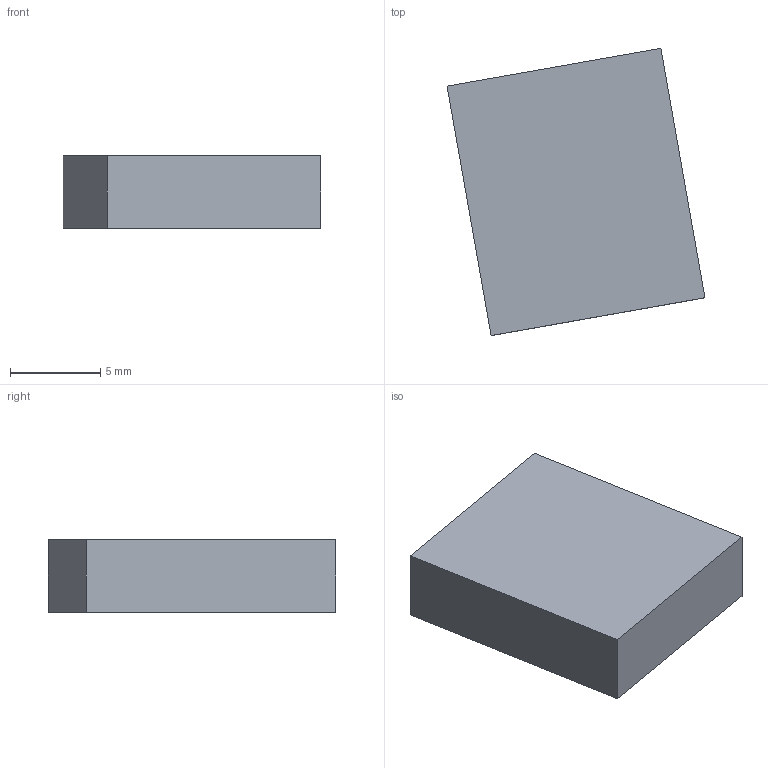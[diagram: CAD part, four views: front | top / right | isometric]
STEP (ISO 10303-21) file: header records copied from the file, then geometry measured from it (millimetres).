
FILE_DESCRIPTION(('Open CASCADE Model'),'2;1');
FILE_NAME('Open CASCADE Shape Model','2026-10-04T01:02:27',('Author'),( 'Open CASCADE'),'Open CASCADE STEP processor 8.0','Open CASCADE 8.0' ,'Unknown');
FILE_SCHEMA(('AUTOMOTIVE_DESIGN { 1 0 10303 214 1 1 1 1 }'));
Length unit declared in the file: millimetre
Products named in the file (1): Open CASCADE STEP translator 8.0 75
Bounding box: 14.25 x 15.87 x 4 mm (x, y, z)
Volume: 672 mm3; surface area: 544 mm2
Topology: 1 solids, 1 shells, 6 faces, 12 edges, 8 vertices
Faces by surface type: plane 6
Entity records: 322 total; most frequent: CARTESIAN_POINT 51, DIRECTION 50, LINE 36, VECTOR 36, ORIENTED_EDGE 24, PCURVE 24, DEFINITIONAL_REPRESENTATION 24, EDGE_CURVE 12
